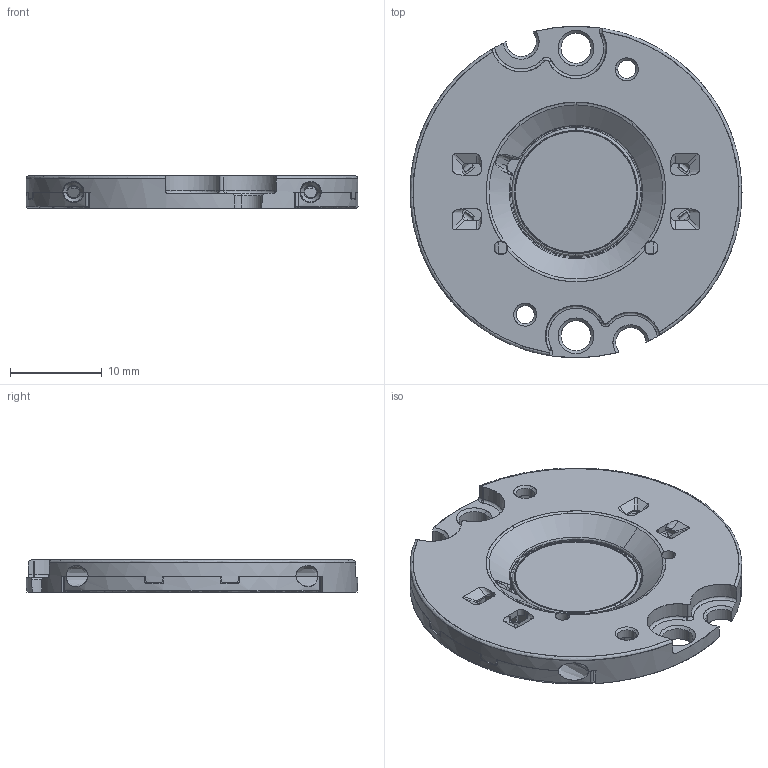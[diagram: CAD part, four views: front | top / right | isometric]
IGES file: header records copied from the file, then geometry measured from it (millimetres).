
Start section: SolidWorks IGES file using analytic representation for surfaces
Global section: file name: D:\Users\5160206\Desktop\3D document\GEN8\Assembly\Vero13\Vero SE\GEN8 Vero13 SE.IGS; native system: SolidWorks 2018; preprocessor: SolidWorks 2018; author: 5160206; date: 200915.104237; units: millimetre
Bounding box: 36.25 x 36.19 x 3.5 mm (x, y, z)
Surface area: 5165 mm2 (no closed solid volume)
Topology: 0 solids, 0 shells, 2066 faces, 19076 edges, 19072 vertices
Faces by surface type: bspline 1969, revolution 97
